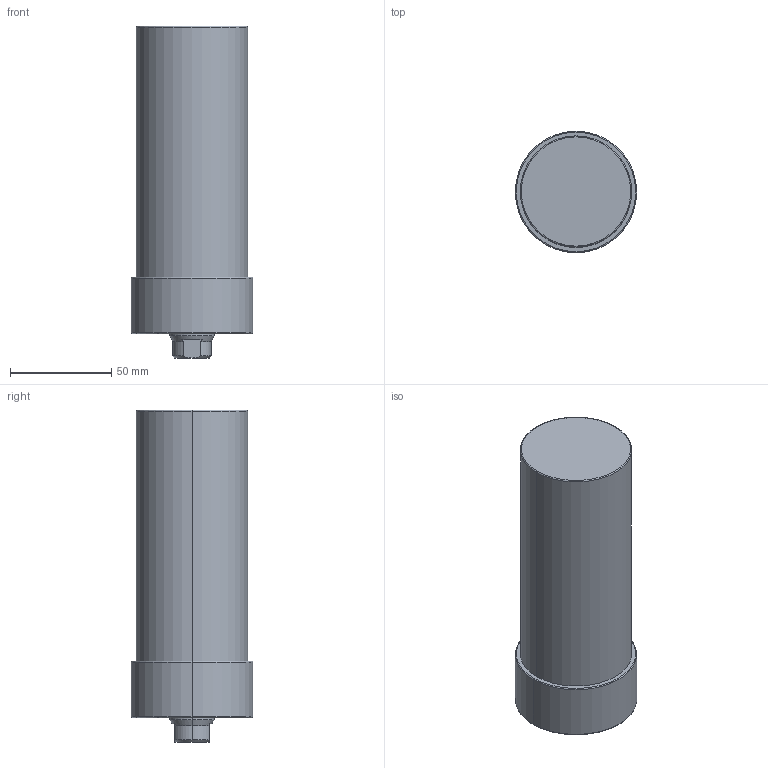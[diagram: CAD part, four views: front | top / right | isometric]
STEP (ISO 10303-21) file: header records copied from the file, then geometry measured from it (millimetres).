
FILE_DESCRIPTION (( 'STEP AP203' ), '1' );
FILE_NAME ('CLLU055-CA-095.STEP', '2017-05-15T08:10:04', ( '' ), ( '' ), 'SwSTEP 2.0', 'SolidWorks 2015', '' );
FILE_SCHEMA (( 'CONFIG_CONTROL_DESIGN' ));
Length unit declared in the file: millimetre
Products named in the file (1): CLLU055-CA-095
Bounding box: 60 x 60 x 164 mm (x, y, z)
Volume: 374103.9 mm3; surface area: 34748.3 mm2
Topology: 1 solids, 1 shells, 64 faces, 143 edges, 80 vertices
Faces by surface type: cone 25, cylinder 23, plane 10, torus 6
Entity records: 1805 total; most frequent: DIRECTION 330, CARTESIAN_POINT 318, ORIENTED_EDGE 266, AXIS2_PLACEMENT_3D 140, EDGE_CURVE 133, VERTEX_POINT 80, CIRCLE 75, EDGE_LOOP 73
